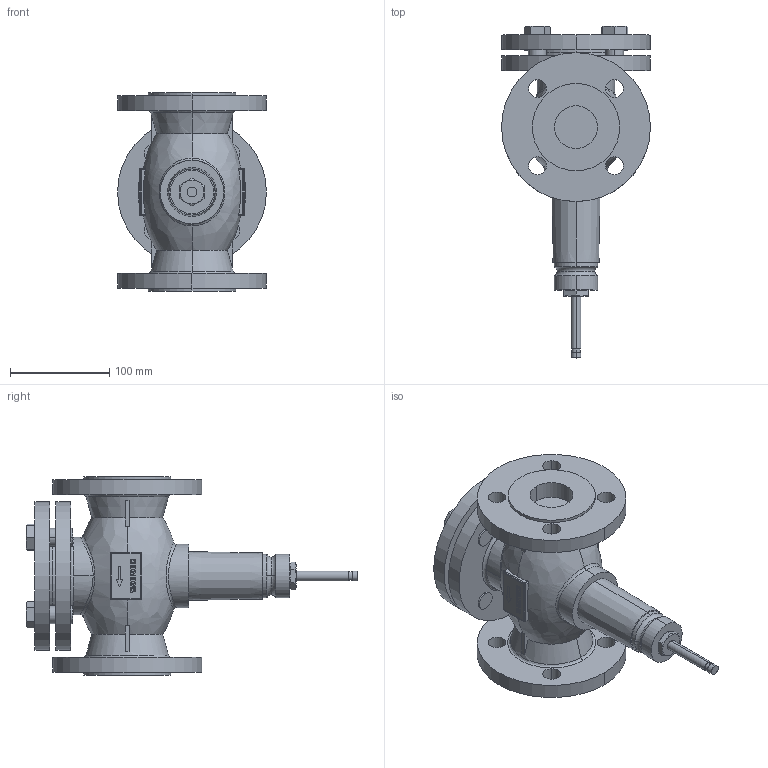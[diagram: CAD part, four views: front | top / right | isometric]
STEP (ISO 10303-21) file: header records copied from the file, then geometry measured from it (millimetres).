
FILE_DESCRIPTION((''),'2;1');
FILE_NAME('000192.stp','2006-09-29T17:19:38',(''),(''),'Mechanical Desktop 2006','Mechanical Desktop 2006',', , ');
FILE_SCHEMA(('AUTOMOTIVE_DESIGN { 1 2 10303 214 0 1 1 1 }'));
Length unit declared in the file: millimetre
Products named in the file (1): Product
Bounding box: 150 x 334.5 x 200 mm (x, y, z)
Volume: 2383735.2 mm3; surface area: 291631.5 mm2
Topology: 34 solids, 34 shells, 595 faces, 1529 edges, 1001 vertices
Faces by surface type: cylinder 264, plane 225, bspline 86, cone 8, sphere 8, torus 4
Entity records: 19780 total; most frequent: CARTESIAN_POINT 5362, ORIENTED_EDGE 3042, DIRECTION 2964, EDGE_CURVE 1521, AXIS2_PLACEMENT_3D 1091, VERTEX_POINT 1001, VECTOR 782, LINE 782
